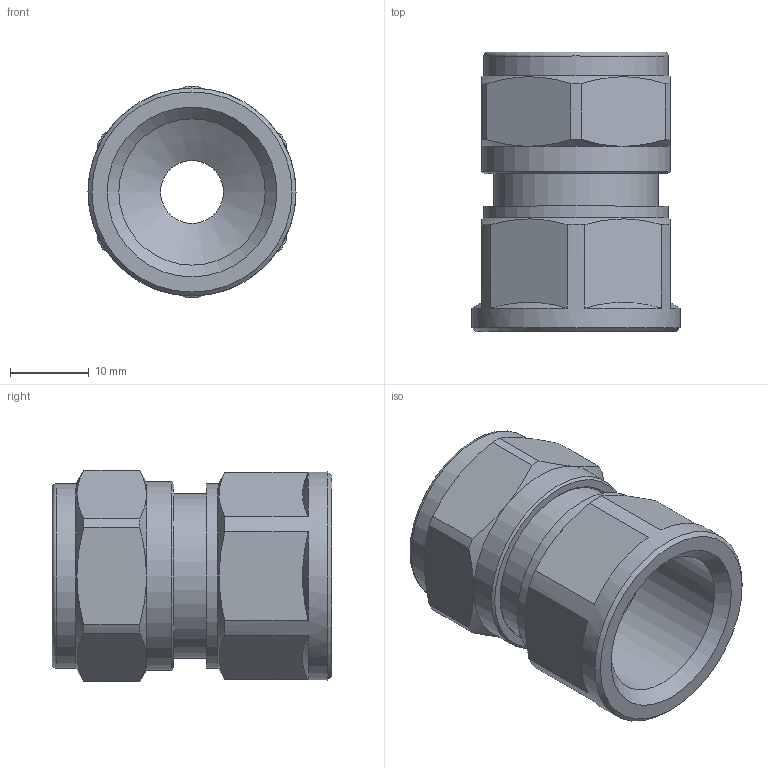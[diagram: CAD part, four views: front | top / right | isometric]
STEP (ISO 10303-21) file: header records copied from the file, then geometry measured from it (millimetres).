
FILE_DESCRIPTION(('STEP AP203'), '1');
FILE_NAME('VTm.302.N.001604', '', ('UNSPECIFIED'), ('UNSPECIFIED'), 'C3D Converter', 'C3D Toolkit', '');
FILE_SCHEMA(('CONFIG_CONTROL_DESIGN'));
Length unit declared in the file: millimetre
Products named in the file (1): ВР.302634.059.000 СБ
Bounding box: 26.5 x 35.61 x 27 mm (x, y, z)
Volume: 9726 mm3; surface area: 7956.9 mm2
Topology: 2 solids, 2 shells, 292 faces, 780 edges, 513 vertices
Faces by surface type: extrusion 111, plane 96, cylinder 31, cone 27, torus 27
Full cylindrical faces by diameter (mm): 8 x1, 11.75 x4, 12.4 x1, 16.2 x1, 16.7 x1, 18.632 x2, 20.955 x1, 23.5 x2, 24 x1, 26.5 x1
Entity records: 10755 total; most frequent: CARTESIAN_POINT 4102, ORIENTED_EDGE 1482, DIRECTION 1019, EDGE_CURVE 741, VERTEX_POINT 513, VECTOR 421, B_SPLINE_CURVE_WITH_KNOTS 405, EDGE_LOOP 354
